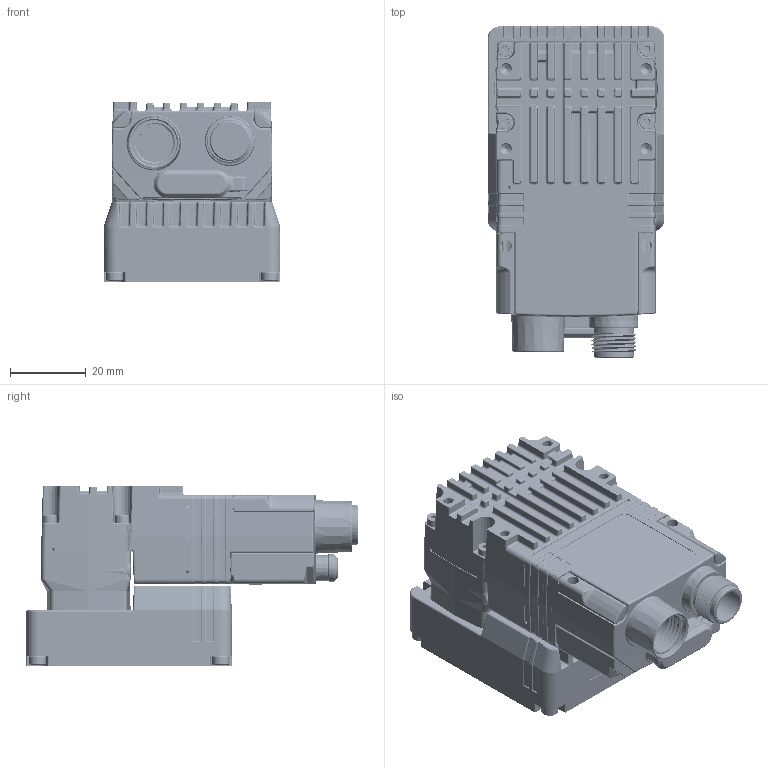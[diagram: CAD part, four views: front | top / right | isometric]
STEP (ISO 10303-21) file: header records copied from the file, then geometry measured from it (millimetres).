
FILE_DESCRIPTION (( 'STEP AP214' ), '1' );
FILE_NAME ('DM290_Integrated Light_6.2mm.STEP', '2024-08-22T18:41:59', ( '' ), ( '' ), 'SwSTEP 2.0', 'SolidWorks 2023', '' );
FILE_SCHEMA (( 'AUTOMOTIVE_DESIGN' ));
Length unit declared in the file: millimetre
Products named in the file (1): DM290_Integrated Light_6.2mm
Bounding box: 46.6 x 87.56 x 47.65 mm (x, y, z)
Volume: 113484.6 mm3; surface area: 54774.5 mm2
Topology: 34 solids, 49 shells, 6903 faces, 17730 edges, 10976 vertices
Faces by surface type: cylinder 2544, plane 2081, bspline 1278, cone 512, torus 289, sphere 199
Entity records: 275236 total; most frequent: CARTESIAN_POINT 123592, ORIENTED_EDGE 35226, DIRECTION 28039, EDGE_CURVE 17613, VERTEX_POINT 10974, AXIS2_PLACEMENT_3D 10017, LINE 8005, VECTOR 8005
